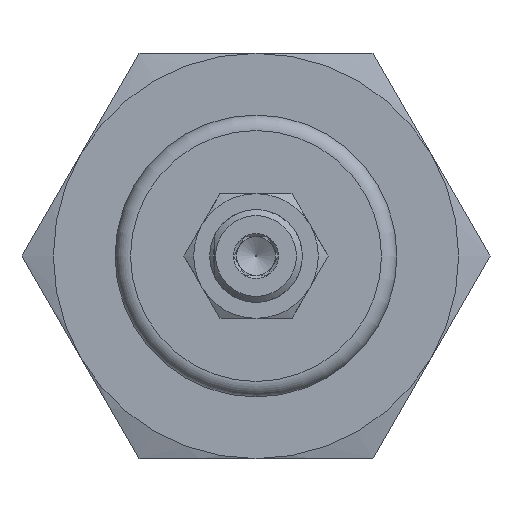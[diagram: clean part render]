
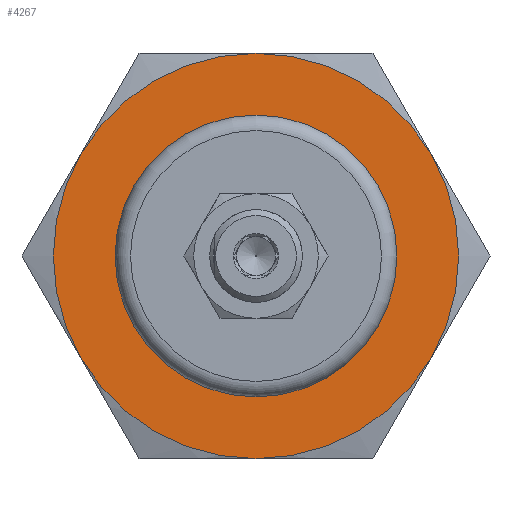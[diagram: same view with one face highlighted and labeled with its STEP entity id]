
A CAD part, left-side view. The second image highlights one B-rep face of the part: STEP entity #4267.
In plain terms, the highlighted planar face has unit normal (-1, 0, 0).
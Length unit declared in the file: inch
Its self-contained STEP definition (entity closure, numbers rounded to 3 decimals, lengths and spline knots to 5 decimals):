
#3630=CARTESIAN_POINT('',(-0.63,0.565,0.));
#3631=VERTEX_POINT('',#3630);
#3632=CARTESIAN_POINT('',(-0.63,0.0,0.));
#3633=DIRECTION('',(1.0,0.0,0.0));
#3634=DIRECTION('',(0.0,1.0,0.0));
#3635=AXIS2_PLACEMENT_3D('',#3632,#3633,#3634);
#3636=CIRCLE('',#3635,0.565);
#3637=EDGE_CURVE('',#3631,#3631,#3636,.T.);
#3673=CARTESIAN_POINT('',(-0.63,0.70365,0.40625));
#3674=VERTEX_POINT('',#3673);
#3755=CARTESIAN_POINT('',(-0.63,0.70365,-0.40625));
#3756=VERTEX_POINT('',#3755);
#3819=CARTESIAN_POINT('',(-0.63,0.0,0.8125));
#3820=VERTEX_POINT('',#3819);
#3914=CARTESIAN_POINT('',(-0.63,0.0,-0.8125));
#3915=VERTEX_POINT('',#3914);
#3987=CARTESIAN_POINT('',(-0.63,-0.70365,-0.40625));
#3988=VERTEX_POINT('',#3987);
#4051=CARTESIAN_POINT('',(-0.63,-0.70365,0.40625));
#4052=VERTEX_POINT('',#4051);
#4089=CARTESIAN_POINT('',(-0.63,0.0,0.));
#4090=DIRECTION('',(-1.0,0.0,0.0));
#4091=DIRECTION('',(0.0,0.0,1.0));
#4092=AXIS2_PLACEMENT_3D('',#4089,#4090,#4091);
#4093=CIRCLE('',#4092,0.8125);
#4094=EDGE_CURVE('',#3756,#3915,#4093,.T.);
#4106=CARTESIAN_POINT('',(-0.63,0.0,0.));
#4107=DIRECTION('',(-1.0,0.0,0.0));
#4108=DIRECTION('',(0.0,0.0,1.0));
#4109=AXIS2_PLACEMENT_3D('',#4106,#4107,#4108);
#4110=CIRCLE('',#4109,0.8125);
#4111=EDGE_CURVE('',#3915,#3988,#4110,.T.);
#4123=CARTESIAN_POINT('',(-0.63,0.0,0.));
#4124=DIRECTION('',(-1.0,0.0,0.0));
#4125=DIRECTION('',(0.0,0.0,1.0));
#4126=AXIS2_PLACEMENT_3D('',#4123,#4124,#4125);
#4127=CIRCLE('',#4126,0.8125);
#4128=EDGE_CURVE('',#3988,#4052,#4127,.T.);
#4141=CARTESIAN_POINT('',(-0.63,0.0,0.));
#4142=DIRECTION('',(-1.0,0.0,0.0));
#4143=DIRECTION('',(0.0,0.0,1.0));
#4144=AXIS2_PLACEMENT_3D('',#4141,#4142,#4143);
#4145=CIRCLE('',#4144,0.8125);
#4146=EDGE_CURVE('',#4052,#3820,#4145,.T.);
#4158=CARTESIAN_POINT('',(-0.63,0.0,0.));
#4159=DIRECTION('',(-1.0,0.0,0.0));
#4160=DIRECTION('',(0.0,0.0,1.0));
#4161=AXIS2_PLACEMENT_3D('',#4158,#4159,#4160);
#4162=CIRCLE('',#4161,0.8125);
#4163=EDGE_CURVE('',#3820,#3674,#4162,.T.);
#4175=CARTESIAN_POINT('',(-0.63,0.0,0.));
#4176=DIRECTION('',(-1.0,0.0,0.0));
#4177=DIRECTION('',(0.0,0.0,1.0));
#4178=AXIS2_PLACEMENT_3D('',#4175,#4176,#4177);
#4179=CIRCLE('',#4178,0.8125);
#4180=EDGE_CURVE('',#3674,#3756,#4179,.T.);
#4251=CARTESIAN_POINT('',(-0.63,0.,0.));
#4252=DIRECTION('',(-1.0,0.0,0.0));
#4253=DIRECTION('',(0.0,0.0,1.0));
#4254=AXIS2_PLACEMENT_3D('',#4251,#4252,#4253);
#4255=PLANE('',#4254);
#4256=ORIENTED_EDGE('',*,*,#4094,.T.);
#4257=ORIENTED_EDGE('',*,*,#4111,.T.);
#4258=ORIENTED_EDGE('',*,*,#4128,.T.);
#4259=ORIENTED_EDGE('',*,*,#4146,.T.);
#4260=ORIENTED_EDGE('',*,*,#4163,.T.);
#4261=ORIENTED_EDGE('',*,*,#4180,.T.);
#4262=EDGE_LOOP('',(#4256,#4257,#4258,#4259,#4260,#4261));
#4263=FACE_OUTER_BOUND('',#4262,.T.);
#4264=ORIENTED_EDGE('',*,*,#3637,.T.);
#4265=EDGE_LOOP('',(#4264));
#4266=FACE_BOUND('',#4265,.T.);
#4267=ADVANCED_FACE('',(#4263,#4266),#4255,.T.);
